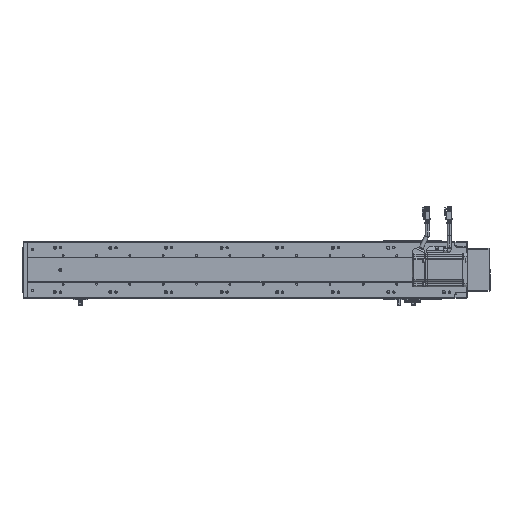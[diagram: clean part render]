
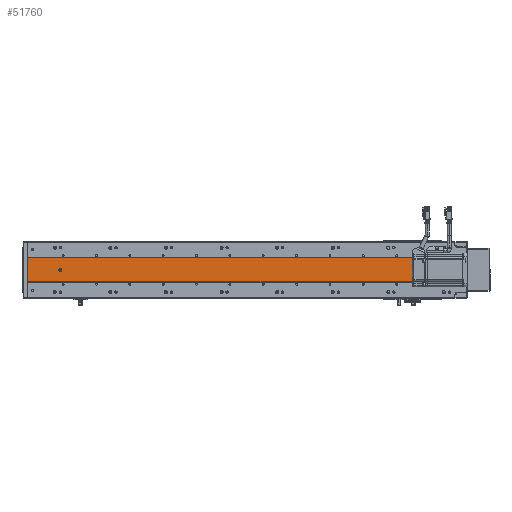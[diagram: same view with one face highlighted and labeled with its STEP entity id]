
A CAD part, front view. The second image highlights one B-rep face of the part: STEP entity #51760.
In plain terms, the highlighted planar face has unit normal (0, -1, 0).
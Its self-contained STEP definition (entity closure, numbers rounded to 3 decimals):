
#8776 = AXIS2_PLACEMENT_3D ( 'NONE', #22944, #22940, #22948 ) ;
#8829 = AXIS2_PLACEMENT_3D ( 'NONE', #23232, #23206, #23145 ) ;
#8930 = AXIS2_PLACEMENT_3D ( 'NONE', #23491, #23421, #23385 ) ;
#8995 = AXIS2_PLACEMENT_3D ( 'NONE', #23666, #23709, #23731 ) ;
#9725 = AXIS2_PLACEMENT_3D ( 'NONE', #97244, #97256, #97216 ) ;
#10077 = AXIS2_PLACEMENT_3D ( 'NONE', #97311, #97312, #97370 ) ;
#10370 = AXIS2_PLACEMENT_3D ( 'NONE', #35929, #35881, #35910 ) ;
#10460 = AXIS2_PLACEMENT_3D ( 'NONE', #35219, #35194, #35136 ) ;
#12987 = EDGE_LOOP ( 'NONE', ( #72853, #72669 ) ) ;
#13052 = EDGE_LOOP ( 'NONE', ( #72922, #72770, #72681, #72510, #72955, #72480, #72571, #72946, #72483, #72957, #72981, #72491 ) ) ;
#16437 = CARTESIAN_POINT ( 'NONE',  ( 142.903, 89.548, 59. ) ) ;
#16487 = CARTESIAN_POINT ( 'NONE',  ( 142.903, 89.548, 759. ) ) ;
#16493 = CARTESIAN_POINT ( 'NONE',  ( 137.903, 89.548, 59. ) ) ;
#16513 = CARTESIAN_POINT ( 'NONE',  ( 137.903, 89.548, 759. ) ) ;
#16688 = CARTESIAN_POINT ( 'NONE',  ( 118.817, 89.548, 769.698 ) ) ;
#16782 = CARTESIAN_POINT ( 'NONE',  ( 161.989, 89.548, 0. ) ) ;
#16790 = CARTESIAN_POINT ( 'NONE',  ( 118.817, 89.548, 0. ) ) ;
#16822 = CARTESIAN_POINT ( 'NONE',  ( 118.817, 89.548, 789. ) ) ;
#16857 = CARTESIAN_POINT ( 'NONE',  ( 161.989, 89.548, 789. ) ) ;
#16872 = CARTESIAN_POINT ( 'NONE',  ( 118.817, 89.548, 776.302 ) ) ;
#16885 = CARTESIAN_POINT ( 'NONE',  ( 118.817, 89.548, 779.698 ) ) ;
#17354 = CARTESIAN_POINT ( 'NONE',  ( 118.817, 89.548, 786.302 ) ) ;
#20964 = VERTEX_POINT ( 'NONE', #65147 ) ;
#20984 = VERTEX_POINT ( 'NONE', #65162 ) ;
#22588 = VERTEX_POINT ( 'NONE', #66135 ) ;
#22621 = VERTEX_POINT ( 'NONE', #66383 ) ;
#22854 = CARTESIAN_POINT ( 'NONE',  ( 161.989, 89.548, 789. ) ) ;
#22865 = DIRECTION ( 'NONE',  ( 0., 0., -1. ) ) ;
#22940 = DIRECTION ( 'NONE',  ( 0., 1., 0. ) ) ;
#22944 = CARTESIAN_POINT ( 'NONE',  ( 115.403, 89.548, 783. ) ) ;
#22948 = DIRECTION ( 'NONE',  ( -1., 0., 0. ) ) ;
#22953 = CARTESIAN_POINT ( 'NONE',  ( 161.989, 89.548, 0. ) ) ;
#22964 = DIRECTION ( 'NONE',  ( 1., 0., 0. ) ) ;
#23145 = DIRECTION ( 'NONE',  ( -1., 0., 0. ) ) ;
#23206 = DIRECTION ( 'NONE',  ( 0., 1., 0. ) ) ;
#23232 = CARTESIAN_POINT ( 'NONE',  ( 115.403, 89.548, 773. ) ) ;
#23385 = DIRECTION ( 'NONE',  ( 1., 0., 0. ) ) ;
#23421 = DIRECTION ( 'NONE',  ( 0., -1., 0. ) ) ;
#23491 = CARTESIAN_POINT ( 'NONE',  ( 140.403, 89.548, 759. ) ) ;
#23590 = CARTESIAN_POINT ( 'NONE',  ( 118.817, 89.548, 789. ) ) ;
#23666 = CARTESIAN_POINT ( 'NONE',  ( 140.403, 89.548, 59. ) ) ;
#23709 = DIRECTION ( 'NONE',  ( 0., -1., 0. ) ) ;
#23731 = DIRECTION ( 'NONE',  ( 1., 0., 0. ) ) ;
#23736 = DIRECTION ( 'NONE',  ( 0., 0., -1. ) ) ;
#35136 = DIRECTION ( 'NONE',  ( 1., 0., 0. ) ) ;
#35194 = DIRECTION ( 'NONE',  ( 0., -1., 0. ) ) ;
#35219 = CARTESIAN_POINT ( 'NONE',  ( 140.403, 89.548, 759. ) ) ;
#35881 = DIRECTION ( 'NONE',  ( 0., -1., 0. ) ) ;
#35910 = DIRECTION ( 'NONE',  ( 1., 0., 0. ) ) ;
#35929 = CARTESIAN_POINT ( 'NONE',  ( 140.403, 89.548, 59. ) ) ;
#36721 = AXIS2_PLACEMENT_3D ( 'NONE', #87922, #87934, #87917 ) ;
#44408 = VERTEX_POINT ( 'NONE', #16487 ) ;
#44448 = VERTEX_POINT ( 'NONE', #16437 ) ;
#44452 = VERTEX_POINT ( 'NONE', #16493 ) ;
#44594 = VERTEX_POINT ( 'NONE', #16513 ) ;
#44718 = VERTEX_POINT ( 'NONE', #16688 ) ;
#44772 = VERTEX_POINT ( 'NONE', #16782 ) ;
#44796 = VERTEX_POINT ( 'NONE', #16790 ) ;
#44850 = VERTEX_POINT ( 'NONE', #16822 ) ;
#44870 = VERTEX_POINT ( 'NONE', #16857 ) ;
#44900 = VERTEX_POINT ( 'NONE', #16872 ) ;
#44931 = VERTEX_POINT ( 'NONE', #16885 ) ;
#45526 = VERTEX_POINT ( 'NONE', #17354 ) ;
#46445 = VECTOR ( 'NONE', #23736, 1000. ) ;
#46447 = CIRCLE ( 'NONE', #8995, 2.5 ) ;
#46472 = LINE ( 'NONE', #23590, #46445 ) ;
#51760 = ADVANCED_FACE ( 'NONE', ( #71249, #71312, #71251 ), #87894, .F. ) ;
#59658 = CARTESIAN_POINT ( 'NONE',  ( 161.989, 89.548, 789. ) ) ;
#59675 = DIRECTION ( 'NONE',  ( 0., 0., -1. ) ) ;
#59916 = CARTESIAN_POINT ( 'NONE',  ( 161.989, 89.548, 789. ) ) ;
#59969 = DIRECTION ( 'NONE',  ( 0., 0., -1. ) ) ;
#60328 = CARTESIAN_POINT ( 'NONE',  ( 118.817, 89.548, 789. ) ) ;
#60501 = DIRECTION ( 'NONE',  ( 0., 0., -1. ) ) ;
#60545 = CARTESIAN_POINT ( 'NONE',  ( 161.989, 89.548, 789. ) ) ;
#60549 = DIRECTION ( 'NONE',  ( 1., 0., 0. ) ) ;
#60840 = DIRECTION ( 'NONE',  ( 0., 0., -1. ) ) ;
#60844 = CARTESIAN_POINT ( 'NONE',  ( 118.817, 89.548, 789. ) ) ;
#62035 = CIRCLE ( 'NONE', #10077, 4.75 ) ;
#62114 = CIRCLE ( 'NONE', #9725, 4.75 ) ;
#62734 = CIRCLE ( 'NONE', #10460, 2.5 ) ;
#63106 = CIRCLE ( 'NONE', #10370, 2.5 ) ;
#63399 = VECTOR ( 'NONE', #59675, 1000. ) ;
#63409 = LINE ( 'NONE', #59658, #63399 ) ;
#63425 = LINE ( 'NONE', #59916, #63453 ) ;
#63453 = VECTOR ( 'NONE', #59969, 1000. ) ;
#63461 = LINE ( 'NONE', #60328, #63463 ) ;
#63463 = VECTOR ( 'NONE', #60501, 1000. ) ;
#63549 = LINE ( 'NONE', #60545, #63578 ) ;
#63578 = VECTOR ( 'NONE', #60549, 1000. ) ;
#63698 = LINE ( 'NONE', #60844, #63700 ) ;
#63700 = VECTOR ( 'NONE', #60840, 1000. ) ;
#65147 = CARTESIAN_POINT ( 'NONE',  ( 161.989, 89.548, 776.302 ) ) ;
#65162 = CARTESIAN_POINT ( 'NONE',  ( 161.989, 89.548, 779.698 ) ) ;
#66135 = CARTESIAN_POINT ( 'NONE',  ( 161.989, 89.548, 786.302 ) ) ;
#66383 = CARTESIAN_POINT ( 'NONE',  ( 161.989, 89.548, 769.698 ) ) ;
#70128 = CIRCLE ( 'NONE', #8829, 4.75 ) ;
#70283 = CIRCLE ( 'NONE', #8930, 2.5 ) ;
#71070 = LINE ( 'NONE', #22854, #71172 ) ;
#71077 = LINE ( 'NONE', #22953, #71079 ) ;
#71079 = VECTOR ( 'NONE', #22964, 1000. ) ;
#71172 = VECTOR ( 'NONE', #22865, 1000. ) ;
#71249 = FACE_BOUND ( 'NONE', #91071, .T. ) ;
#71251 = FACE_OUTER_BOUND ( 'NONE', #13052, .T. ) ;
#71294 = CIRCLE ( 'NONE', #8776, 4.75 ) ;
#71312 = FACE_BOUND ( 'NONE', #12987, .T. ) ;
#72449 = ORIENTED_EDGE ( 'NONE', *, *, #105937, .F. ) ;
#72480 = ORIENTED_EDGE ( 'NONE', *, *, #80577, .T. ) ;
#72483 = ORIENTED_EDGE ( 'NONE', *, *, #106172, .T. ) ;
#72491 = ORIENTED_EDGE ( 'NONE', *, *, #105681, .T. ) ;
#72510 = ORIENTED_EDGE ( 'NONE', *, *, #106182, .F. ) ;
#72571 = ORIENTED_EDGE ( 'NONE', *, *, #106227, .T. ) ;
#72669 = ORIENTED_EDGE ( 'NONE', *, *, #106019, .F. ) ;
#72681 = ORIENTED_EDGE ( 'NONE', *, *, #80525, .F. ) ;
#72770 = ORIENTED_EDGE ( 'NONE', *, *, #105652, .T. ) ;
#72835 = ORIENTED_EDGE ( 'NONE', *, *, #80699, .F. ) ;
#72853 = ORIENTED_EDGE ( 'NONE', *, *, #80785, .F. ) ;
#72922 = ORIENTED_EDGE ( 'NONE', *, *, #106137, .F. ) ;
#72946 = ORIENTED_EDGE ( 'NONE', *, *, #80637, .T. ) ;
#72955 = ORIENTED_EDGE ( 'NONE', *, *, #80768, .T. ) ;
#72957 = ORIENTED_EDGE ( 'NONE', *, *, #80553, .T. ) ;
#72981 = ORIENTED_EDGE ( 'NONE', *, *, #106107, .F. ) ;
#80525 = EDGE_CURVE ( 'NONE', #44870, #22588, #71070, .T. ) ;
#80553 = EDGE_CURVE ( 'NONE', #44796, #44772, #71077, .T. ) ;
#80577 = EDGE_CURVE ( 'NONE', #45526, #44931, #71294, .T. ) ;
#80637 = EDGE_CURVE ( 'NONE', #44900, #44718, #70128, .T. ) ;
#80699 = EDGE_CURVE ( 'NONE', #44408, #44594, #70283, .T. ) ;
#80768 = EDGE_CURVE ( 'NONE', #44850, #45526, #46472, .T. ) ;
#80785 = EDGE_CURVE ( 'NONE', #44448, #44452, #46447, .T. ) ;
#87894 = PLANE ( 'NONE',  #36721 ) ;
#87917 = DIRECTION ( 'NONE',  ( -1., 0., 0. ) ) ;
#87922 = CARTESIAN_POINT ( 'NONE',  ( 161.989, 89.548, 789. ) ) ;
#87934 = DIRECTION ( 'NONE',  ( 0., 1., 0. ) ) ;
#91071 = EDGE_LOOP ( 'NONE', ( #72835, #72449 ) ) ;
#97216 = DIRECTION ( 'NONE',  ( -1., 0., 0. ) ) ;
#97244 = CARTESIAN_POINT ( 'NONE',  ( 165.403, 89.548, 783. ) ) ;
#97256 = DIRECTION ( 'NONE',  ( 0., 1., 0. ) ) ;
#97311 = CARTESIAN_POINT ( 'NONE',  ( 165.403, 89.548, 773. ) ) ;
#97312 = DIRECTION ( 'NONE',  ( 0., 1., 0. ) ) ;
#97370 = DIRECTION ( 'NONE',  ( -1., 0., 0. ) ) ;
#105652 = EDGE_CURVE ( 'NONE', #20984, #22588, #62114, .T. ) ;
#105681 = EDGE_CURVE ( 'NONE', #22621, #20964, #62035, .T. ) ;
#105937 = EDGE_CURVE ( 'NONE', #44594, #44408, #62734, .T. ) ;
#106019 = EDGE_CURVE ( 'NONE', #44452, #44448, #63106, .T. ) ;
#106107 = EDGE_CURVE ( 'NONE', #22621, #44772, #63409, .T. ) ;
#106137 = EDGE_CURVE ( 'NONE', #20984, #20964, #63425, .T. ) ;
#106172 = EDGE_CURVE ( 'NONE', #44718, #44796, #63461, .T. ) ;
#106182 = EDGE_CURVE ( 'NONE', #44850, #44870, #63549, .T. ) ;
#106227 = EDGE_CURVE ( 'NONE', #44931, #44900, #63698, .T. ) ;
